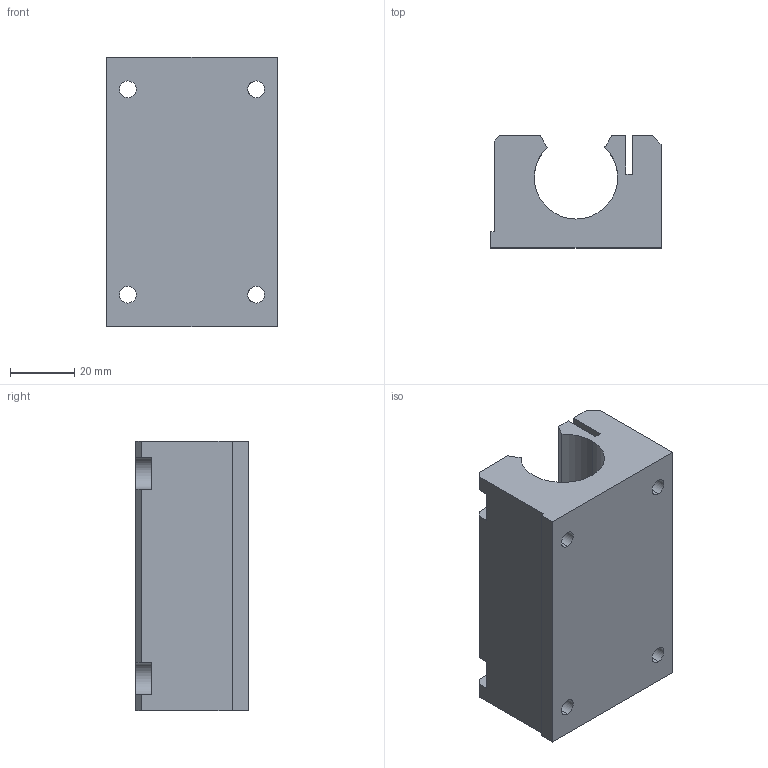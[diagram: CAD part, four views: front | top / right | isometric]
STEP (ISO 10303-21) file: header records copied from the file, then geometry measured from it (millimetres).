
FILE_DESCRIPTION (( 'STEP AP214' ), '1' );
FILE_NAME ('KTGOE34-16.step', '2020-03-04T13:29:05', ( '' ), ( '' ), 'SwSTEP 2.0', 'SolidWorks 2019', '' );
FILE_SCHEMA (( 'AUTOMOTIVE_DESIGN' ));
Length unit declared in the file: millimetre
Products named in the file (1): KTGOE34-16
Bounding box: 53 x 35 x 84 mm (x, y, z)
Volume: 97739.7 mm3; surface area: 25919.9 mm2
Topology: 1 solids, 1 shells, 85 faces, 253 edges, 166 vertices
Faces by surface type: plane 43, cylinder 39, cone 3
Entity records: 3292 total; most frequent: CARTESIAN_POINT 701, ORIENTED_EDGE 506, DIRECTION 482, EDGE_CURVE 253, VERTEX_POINT 166, LINE 164, VECTOR 164, AXIS2_PLACEMENT_3D 159
